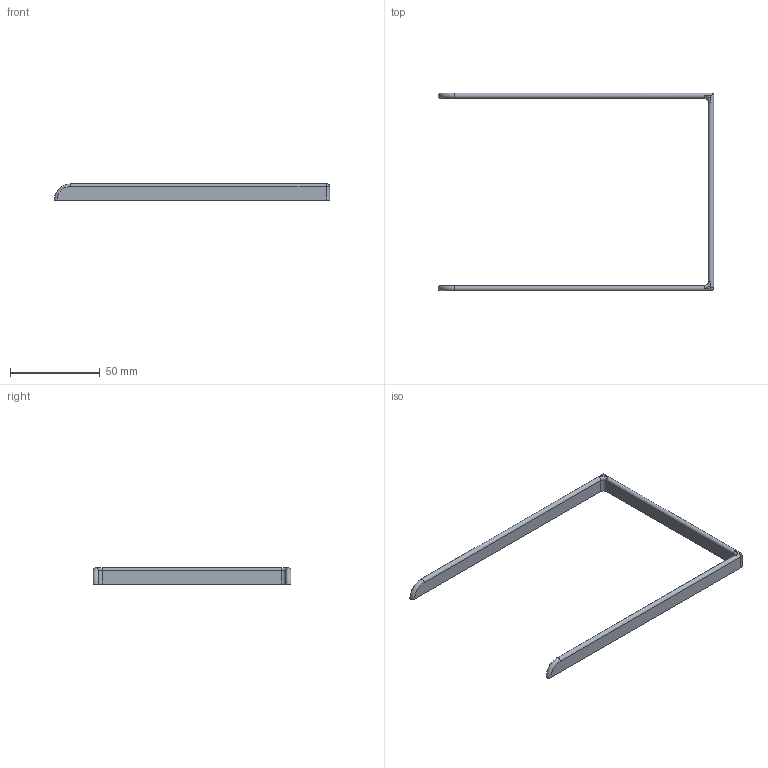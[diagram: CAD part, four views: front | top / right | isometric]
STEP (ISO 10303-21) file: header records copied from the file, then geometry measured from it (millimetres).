
FILE_DESCRIPTION(/* description */ (''),/* implementation_level */ '2;1');
FILE_NAME(/* name */ 'D:/Down/Druck/Tisch/GelaenderV58.step',/* time_stamp */ '2022-02-09T16:39:45+07:00',/* author */ (''),/* organization */ (''),/* preprocessor_version */ 'ST-DEVELOPER v18.1',/* originating_system */ 'Autodesk Translation Framework v10.13.0.1454',/* authorisation */ '');
FILE_SCHEMA (('AUTOMOTIVE_DESIGN { 1 0 10303 214 3 1 1 }'));
Length unit declared in the file: millimetre
Products named in the file (1): Gelaender
Bounding box: 153 x 110 x 9 mm (x, y, z)
Volume: 10569.9 mm3; surface area: 9237.3 mm2
Topology: 1 solids, 1 shells, 20 faces, 47 edges, 29 vertices
Faces by surface type: plane 9, cylinder 6, torus 4, bspline 1
Entity records: 623 total; most frequent: DIRECTION 111, CARTESIAN_POINT 105, ORIENTED_EDGE 94, EDGE_CURVE 47, AXIS2_PLACEMENT_3D 44, VERTEX_POINT 29, LINE 23, VECTOR 23
